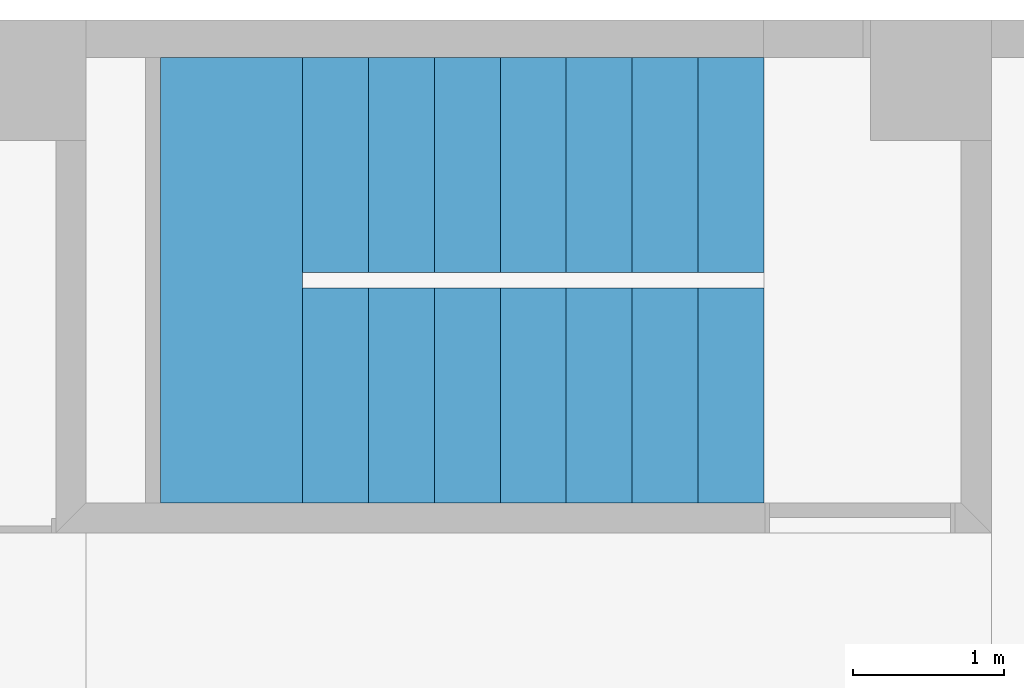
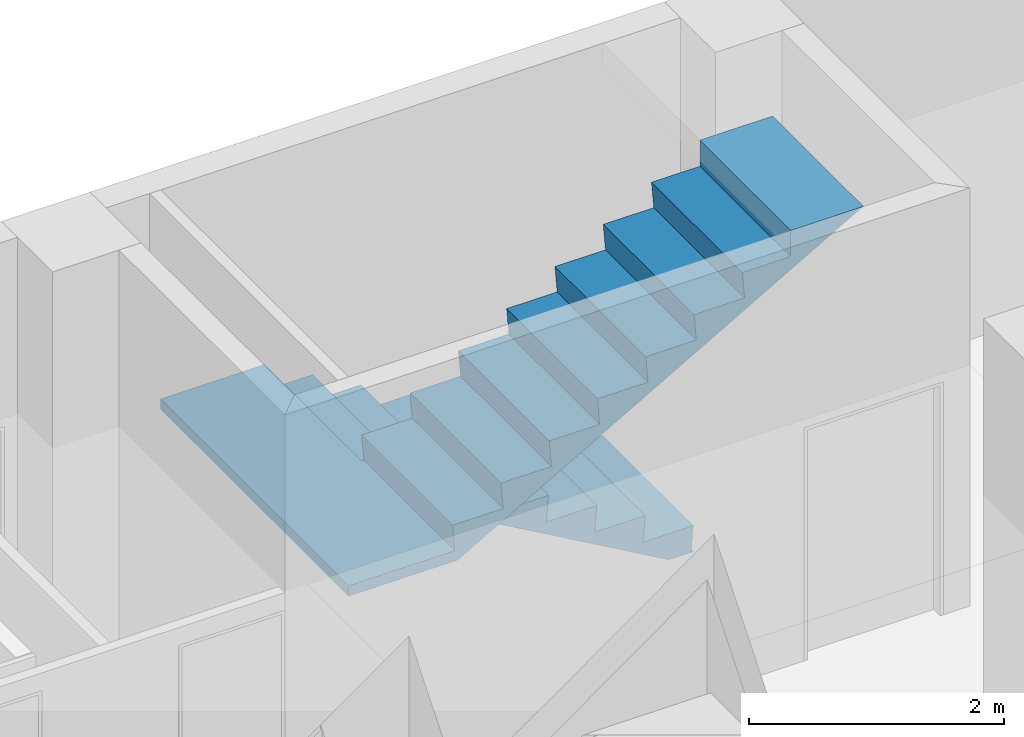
# One storey, part 8 of 17: 1 stair.
"""IFC2X3 building model written with IfcOpenShell, lengths in millimetres."""

import ifcopenshell
import ifcopenshell.guid

model = None  # the IFC model being written
_history = None  # IfcOwnerHistory: only IFC2X3 demands one
_inside = {}  # id of a spatial element -> (the spatial element, [elements in it])
_under = {}  # id of a project, library or spatial element -> (it, [spatial elements below it])
_declared = {}  # id of a project -> (the project, [libraries it declares])
_typed = {}  # id of a type object -> (the type object, [elements of that type])
_made_of = {}  # id of a material, layer set ... -> (it, [elements and type objects made of it])


def new_model(schema):
    """Start an empty IFC model of exactly this schema.

    Asked for "IFC4X3", IfcOpenShell would pick the latest addendum, in which some entities
    have other attributes; the version numbers below select the first issue.
    IFC2X3 requires an IfcOwnerHistory on every rooted entity: one is made here for all.
    """
    global model, _history
    if schema == "IFC4X3":
        model = ifcopenshell.file(schema_version=(4, 3, 0, 0))
    else:
        model = ifcopenshell.file(schema=schema)
    _inside.clear()
    _under.clear()
    _declared.clear()
    _typed.clear()
    _made_of.clear()
    _history = None
    if model.schema == "IFC2X3":
        org = make("IfcOrganization", Name="unknown")
        user = make(
            "IfcPersonAndOrganization",
            ThePerson=make("IfcPerson", FamilyName="unknown"),
            TheOrganization=org,
        )
        app = make(
            "IfcApplication",
            ApplicationDeveloper=org,
            Version="unknown",
            ApplicationFullName="unknown",
            ApplicationIdentifier="unknown",
        )
        _history = make(
            "IfcOwnerHistory",
            OwningUser=user,
            OwningApplication=app,
            ChangeAction="ADDED",
            CreationDate=0,
        )
    return model


def make(cls, **values):
    """One entity of the class cls with the attributes given. An attribute that is None is left unset."""
    return model.create_entity(
        cls, **{name: value for name, value in values.items() if value is not None}
    )


def entity(cls, *values):
    """Any entity or typed value of the class cls, its attributes in the order of the schema. None: left unset."""
    e = model.create_entity(cls)
    for i, value in enumerate(values):
        if value is not None:
            e[i] = value
    return e


def rooted(cls, **values):
    """An entity with a GlobalId (a new one), such as an element, a storey or a relation."""
    return make(cls, GlobalId=ifcopenshell.guid.new(), OwnerHistory=_history, **values)


def si_unit(unit_type, name, prefix=None):
    """IfcSIUnit, for example si_unit("LENGTHUNIT", "METRE", prefix="MILLI")."""
    return make("IfcSIUnit", UnitType=unit_type, Prefix=prefix, Name=name)


def converted_unit(unit_type, name, factor, base, dimensions=None, offset=None):
    """IfcConversionBasedUnit, such as the inch: factor (a typed value) times the base unit."""
    return make(
        "IfcConversionBasedUnit"
        if offset is None
        else "IfcConversionBasedUnitWithOffset",
        ConversionOffset=offset,
        Dimensions=None
        if dimensions is None
        else entity("IfcDimensionalExponents", *dimensions),
        UnitType=unit_type,
        Name=name,
        ConversionFactor=make(
            "IfcMeasureWithUnit", ValueComponent=factor, UnitComponent=base
        ),
    )


def assignment(units):
    """IfcUnitAssignment: the units of a project."""
    return None if units is None else make("IfcUnitAssignment", Units=units)


def point(xyz):
    """IfcCartesianPoint."""
    return None if xyz is None else make("IfcCartesianPoint", Coordinates=xyz)


def direction(xyz):
    """IfcDirection."""
    return None if xyz is None else make("IfcDirection", DirectionRatios=xyz)


def frame(location, z_axis=None, x_axis=None):
    """IfcAxis2Placement3D, a coordinate frame: its origin and axes. An axis left out is left unset."""
    return make(
        "IfcAxis2Placement3D",
        Location=point(location),
        Axis=direction(z_axis),
        RefDirection=direction(x_axis),
    )


def origin_with_axes():
    """The frame at (0, 0, 0) with the z axis (0, 0, 1) and the x axis (1, 0, 0) written out."""
    return frame((0.0, 0.0, 0.0), z_axis=(0.0, 0.0, 1.0), x_axis=(1.0, 0.0, 0.0))


def place(relative_to, where):
    """IfcLocalPlacement: puts the frame where relative to a parent placement (None: the world)."""
    return make(
        "IfcLocalPlacement", PlacementRelTo=relative_to, RelativePlacement=where
    )


def context(
    kind, dimensions, precision=None, world=None, true_north=None, identifier=None
):
    """IfcGeometricRepresentationContext, for example the 3D "Model" context."""
    return make(
        "IfcGeometricRepresentationContext",
        ContextIdentifier=identifier,
        ContextType=kind,
        CoordinateSpaceDimension=dimensions,
        Precision=precision,
        WorldCoordinateSystem=world,
        TrueNorth=true_north,
    )


def project(units=None, contexts=None):
    """IfcProject with its units and contexts."""
    return rooted(
        "IfcProject",
        Name="project",
        RepresentationContexts=contexts,
        UnitsInContext=assignment(units),
    )


def spatial(cls, under=None, at=None, **own):
    """A site, building, storey or space (cls), placed at a placement, below another one or the project."""
    s = rooted(cls, ObjectPlacement=at, **own)
    if under is not None:
        _under.setdefault(under.id(), (under, []))[1].append(s)
    return s


def faces_of(points, faces, orient=None, outer=None):
    """IfcFace entities. A face is a list of loops; a loop is a list of indices into points, from 0.

    orient and outer hold one flag for each loop. By default every Orientation is true, the
    first loop of a face is its IfcFaceOuterBound and the others are IfcFaceBound.
    """
    made = []
    for i, loops in enumerate(faces):
        bounds = []
        for j, loop in enumerate(loops):
            is_outer = j == 0 if outer is None else outer[i][j]
            bounds.append(
                make(
                    "IfcFaceOuterBound" if is_outer else "IfcFaceBound",
                    Bound=make("IfcPolyLoop", Polygon=[points[k] for k in loop]),
                    Orientation=True if orient is None else orient[i][j],
                )
            )
        made.append(make("IfcFace", Bounds=bounds))
    return made


def faceted_brep(points, faces, orient=None, outer=None, voids=None):
    """IfcFacetedBrep: a solid bounded by flat faces; with voids (closed shells), ...WithVoids."""
    shared = [point(p) for p in points]
    hull = make("IfcClosedShell", CfsFaces=faces_of(shared, faces, orient, outer))
    if voids is None:
        return make("IfcFacetedBrep", Outer=hull)
    return make(
        "IfcFacetedBrepWithVoids",
        Outer=hull,
        Voids=[
            make(cls, CfsFaces=faces_of(shared, fs, o, b)) for cls, fs, o, b in voids
        ],
    )


def shape(context_of_items, identifier, shape_type, items):
    """IfcShapeRepresentation: the items that make up one representation, for example the "Body"."""
    return make(
        "IfcShapeRepresentation",
        ContextOfItems=context_of_items,
        RepresentationIdentifier=identifier,
        RepresentationType=shape_type,
        Items=items,
    )


def material(Name=None, Category=None):
    """IfcMaterial."""
    return make("IfcMaterial", Name=Name, Category=Category)


def made_of(thing, what):
    """Note that an element or type object is made of a material, layer set ...; save() writes the relation."""
    if what is not None:
        _made_of.setdefault(what.id(), (what, []))[1].append(thing)
    return thing


def element(
    cls,
    number,
    at=None,
    inside=None,
    cuts=None,
    type_object=None,
    material=None,
    context=None,
    identifier="Body",
    shape_type=None,
    held_by="IfcProductDefinitionShape",
    body=None,
    shapes=None,
    **own,
):
    """One element of the class cls, such as IfcWall. Its Tag is "e" and its number.

    at: its placement. inside: the storey or other place that contains it. cuts: it is an
    opening in that element (IfcRelVoidsElement). A single representation is given by context,
    identifier, shape_type and body (its items); several are given by shapes. held_by: the class
    of the entity that holds the representations. save() writes the other relations.
    """
    e = rooted(cls, Tag="e%d" % number, ObjectPlacement=at, **own)
    if body is not None:
        shapes = [shape(context, identifier, shape_type, body)]
    if shapes is not None:
        e.Representation = make(held_by, Representations=shapes)
    if inside is not None:
        _inside.setdefault(inside.id(), (inside, []))[1].append(e)
    if cuts is not None:
        rooted(
            "IfcRelVoidsElement", RelatingBuildingElement=cuts, RelatedOpeningElement=e
        )
    if type_object is not None:
        _typed.setdefault(type_object.id(), (type_object, []))[1].append(e)
    return made_of(e, material)


def aggregate(whole, parts):
    """IfcRelAggregates: a whole, such as a stair, and the parts it consists of."""
    return rooted("IfcRelAggregates", RelatingObject=whole, RelatedObjects=parts)


def save(model, path):
    """Write the relations noted so far, then the file.

    IfcRelAggregates (storeys below a building ...), IfcRelContainedInSpatialStructure (elements
    in a storey), IfcRelDefinesByType, IfcRelAssociatesMaterial and IfcRelDeclares: one each for
    every whole, place, type object, material and project.
    """
    for whole, parts in _under.values():
        aggregate(whole, parts)
    for where, things in _inside.values():
        rooted(
            "IfcRelContainedInSpatialStructure",
            RelatedElements=things,
            RelatingStructure=where,
        )
    for kind, things in _typed.values():
        rooted("IfcRelDefinesByType", RelatedObjects=things, RelatingType=kind)
    for what, things in _made_of.values():
        rooted("IfcRelAssociatesMaterial", RelatedObjects=things, RelatingMaterial=what)
    for by, libraries in _declared.values():
        rooted("IfcRelDeclares", RelatingContext=by, RelatedDefinitions=libraries)
    model.write(path)


model = new_model("IFC2X3")

# Units and contexts
model_context = context("Model", 3, precision=1e-05, world=origin_with_axes(), true_north=direction((0.0, 1.0)))
ifc_project = project(units=[si_unit("LENGTHUNIT", "METRE", prefix="MILLI"), si_unit("AREAUNIT", "SQUARE_METRE"), si_unit("VOLUMEUNIT", "CUBIC_METRE"), converted_unit("PLANEANGLEUNIT", "DEGREE", entity("IfcPlaneAngleMeasure", 0.017453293), si_unit("PLANEANGLEUNIT", "RADIAN"), dimensions=[0, 0, 0, 0, 0, 0, 0]), si_unit("SOLIDANGLEUNIT", "STERADIAN"), si_unit("MASSUNIT", "GRAM"), si_unit("TIMEUNIT", "SECOND"), si_unit("THERMODYNAMICTEMPERATUREUNIT", "DEGREE_CELSIUS"), si_unit("LUMINOUSINTENSITYUNIT", "LUMEN")], contexts=[model_context])

# Site, building, storey
site_placement = place(None, origin_with_axes())
site = spatial("IfcSite", under=ifc_project, at=site_placement, Name="\x83T\x83C\x83g", CompositionType="ELEMENT")
building_placement = place(site_placement, origin_with_axes())
building = spatial("IfcBuilding", under=site, at=building_placement, Name="Daitec-Sample 201208", CompositionType="ELEMENT")
storey_placement = place(building_placement, origin_with_axes())
storey = spatial("IfcBuildingStorey", under=building, at=storey_placement, Name="1F", CompositionType="ELEMENT", Elevation=0.0)

# Stair
ifc_material = material(Name="\x94w\x8ci")
stair_placement = place(storey_placement, frame((29393.973, 23550.0, 0.0), z_axis=(0.0, 0.0, 1.0), x_axis=(0.0, 1.0, 0.0)))
element("IfcStair", 1, at=stair_placement, inside=storey, material=ifc_material, Name="K3", ShapeType="NOTDEFINED", context=model_context, shape_type="Brep", body=[
    faceted_brep([(0.0, 0.0, 0.0), (-1425.0, 0.0, 0.0), (-1425.0, 221.43142, 0.0), (0.0, 221.43142, 0.0), (0.0, 20.0, 0.0), (-1425.0, 20.0, 0.0), (-1425.0, 0.0, 250.0), (-1425.0, 457.13996, 250.0), (-1425.0, 437.13996, 500.0), (-1425.0, 894.27993, 500.0), (-1425.0, 874.27993, 750.0), (-1425.0, 1331.4199, 750.0), (-1425.0, 1311.4199, 1000.0), (-1425.0, 1768.5599, 1000.0), (-1425.0, 1748.5599, 1250.0), (-1425.0, 2205.6998, 1250.0), (-1425.0, 2185.6998, 1500.0), (-1425.0, 2642.8398, 1500.0), (-1425.0, 2622.8398, 1750.0), (-1425.0, 3059.9798, 1750.0), (-1425.0, 3059.9798, 2000.0), (-1425.0, 3059.9798, 1900.0), (-1425.0, 3543.6951, 1900.0), (0.0, 3543.6951, 1900.0), (0.0, 3059.9798, 1900.0), (0.0, 3059.9798, 2000.0), (0.0, 3059.9798, 1750.0), (0.0, 2622.8398, 1750.0), (0.0, 2642.8398, 1500.0), (0.0, 2185.6998, 1500.0), (0.0, 2205.6998, 1250.0), (0.0, 1748.5599, 1250.0), (0.0, 1768.5599, 1000.0), (0.0, 1311.4199, 1000.0), (0.0, 1331.4199, 750.0), (0.0, 874.27993, 750.0), (0.0, 894.27993, 500.0), (0.0, 437.13996, 500.0), (0.0, 457.13996, 250.0), (0.0, 0.0, 250.0)], [[[0, 1, 2, 3]], [[4, 5, 1, 0]], [[1, 5, 6, 7, 8, 9, 10, 11, 12, 13, 14, 15, 16, 17, 18, 19, 20, 21, 22, 2]], [[3, 2, 22, 23]], [[0, 3, 23, 24, 25, 26, 27, 28, 29, 30, 31, 32, 33, 34, 35, 36, 37, 38, 39, 4]], [[39, 6, 5, 4]], [[38, 7, 6, 39]], [[37, 8, 7, 38]], [[36, 9, 8, 37]], [[35, 10, 9, 36]], [[34, 11, 10, 35]], [[33, 12, 11, 34]], [[32, 13, 12, 33]], [[31, 14, 13, 32]], [[30, 15, 14, 31]], [[29, 16, 15, 30]], [[28, 17, 16, 29]], [[27, 18, 17, 28]], [[26, 19, 18, 27]], [[25, 20, 19, 26]], [[24, 21, 20, 25]], [[23, 22, 21, 24]]]),
    faceted_brep([(-2950.0, 3059.9798, 1900.0), (-1525.0, 3059.9798, 1900.0), (-1525.0, 3013.4043, 1900.0), (-2950.0, 3013.4043, 1900.0), (-2950.0, 3059.9798, 2000.0), (-1525.0, 3059.9798, 2000.0), (-1525.0, 3039.9798, 2000.0), (-1525.0, 3059.9798, 2250.0), (-1525.0, 2602.8398, 2250.0), (-1525.0, 2622.8398, 2500.0), (-1525.0, 2165.6998, 2500.0), (-1525.0, 2185.6998, 2750.0), (-1525.0, 1728.5599, 2750.0), (-1525.0, 1748.5599, 3000.0), (-1525.0, 1291.4199, 3000.0), (-1525.0, 1311.4199, 3250.0), (-1525.0, 854.27993, 3250.0), (-1525.0, 874.27993, 3500.0), (-1525.0, 417.13996, 3500.0), (-1525.0, 437.13996, 3750.0), (-1525.0, 0.0, 3750.0), (-1525.0, 0.0, 4000.0), (-1525.0, -658.57138, 4000.0), (-2950.0, -658.57138, 4000.0), (-2950.0, 0.0, 4000.0), (-2950.0, 0.0, 3750.0), (-2950.0, 437.13996, 3750.0), (-2950.0, 417.13996, 3500.0), (-2950.0, 874.27993, 3500.0), (-2950.0, 854.27993, 3250.0), (-2950.0, 1311.4199, 3250.0), (-2950.0, 1291.4199, 3000.0), (-2950.0, 1748.5599, 3000.0), (-2950.0, 1728.5599, 2750.0), (-2950.0, 2185.6998, 2750.0), (-2950.0, 2165.6998, 2500.0), (-2950.0, 2622.8398, 2500.0), (-2950.0, 2602.8398, 2250.0), (-2950.0, 3059.9798, 2250.0), (-2950.0, 3039.9798, 2000.0)], [[[0, 1, 2, 3]], [[4, 5, 1, 0]], [[1, 5, 6, 7, 8, 9, 10, 11, 12, 13, 14, 15, 16, 17, 18, 19, 20, 21, 22, 2]], [[3, 2, 22, 23]], [[0, 3, 23, 24, 25, 26, 27, 28, 29, 30, 31, 32, 33, 34, 35, 36, 37, 38, 39, 4]], [[39, 6, 5, 4]], [[38, 7, 6, 39]], [[37, 8, 7, 38]], [[36, 9, 8, 37]], [[35, 10, 9, 36]], [[34, 11, 10, 35]], [[33, 12, 11, 34]], [[32, 13, 12, 33]], [[31, 14, 13, 32]], [[30, 15, 14, 31]], [[29, 16, 15, 30]], [[28, 17, 16, 29]], [[27, 18, 17, 28]], [[26, 19, 18, 27]], [[25, 20, 19, 26]], [[24, 21, 20, 25]], [[23, 22, 21, 24]]]),
    faceted_brep([(0.0, 3059.9798, 1900.0), (0.0, 3059.9798, 2000.0), (-1425.0, 3059.9798, 2000.0), (-1425.0, 3059.9798, 1900.0), (0.0, 3543.6951, 1900.0), (0.0, 3543.6951, 2000.0), (0.0, 4000.0, 2000.0), (-2950.0, 4000.0, 2000.0), (-2950.0, 3059.9798, 2000.0), (-1525.0, 3059.9798, 2000.0), (-1525.0, 3059.9798, 1900.0), (-2950.0, 3059.9798, 1900.0), (-2950.0, 4000.0, 1900.0), (0.0, 4000.0, 1900.0)], [[[0, 1, 2, 3]], [[4, 5, 1, 0]], [[1, 5, 6, 7, 8, 9, 2]], [[3, 2, 9, 10]], [[0, 3, 10, 11, 12, 13, 4]], [[13, 6, 5, 4]], [[12, 7, 6, 13]], [[11, 8, 7, 12]], [[10, 9, 8, 11]]]),
])

save(model, "model.ifc")
